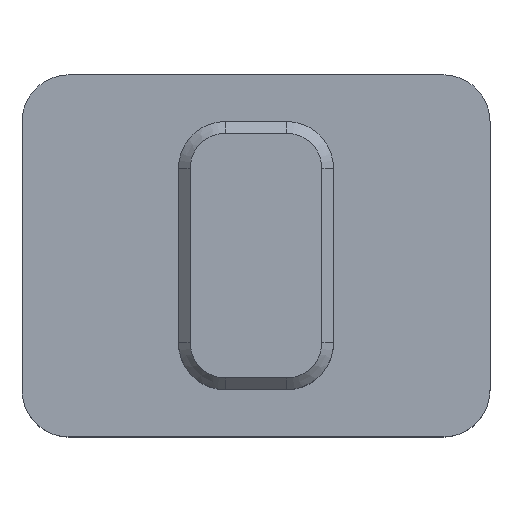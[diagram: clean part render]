
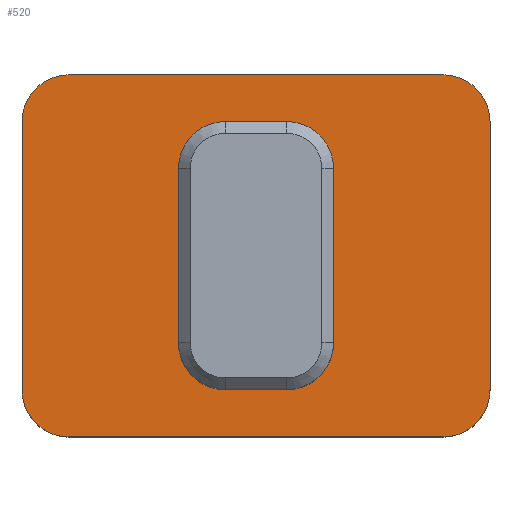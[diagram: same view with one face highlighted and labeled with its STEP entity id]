
A CAD part, top view. The second image highlights one B-rep face of the part: STEP entity #520.
In plain terms, the highlighted planar face has unit normal (0, 0, 1).
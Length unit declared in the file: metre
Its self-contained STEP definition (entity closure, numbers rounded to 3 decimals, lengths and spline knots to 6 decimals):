
#24=CIRCLE('',#565,0.002);
#25=CIRCLE('',#566,0.002);
#26=CIRCLE('',#567,0.002);
#27=CIRCLE('',#568,0.002);
#28=CIRCLE('',#569,0.002);
#29=CIRCLE('',#570,0.002);
#30=CIRCLE('',#571,0.002);
#31=CIRCLE('',#572,0.002);
#68=ORIENTED_EDGE('',*,*,#212,.F.);
#69=ORIENTED_EDGE('',*,*,#213,.F.);
#70=ORIENTED_EDGE('',*,*,#199,.T.);
#71=ORIENTED_EDGE('',*,*,#214,.F.);
#72=ORIENTED_EDGE('',*,*,#215,.T.);
#73=ORIENTED_EDGE('',*,*,#216,.F.);
#74=ORIENTED_EDGE('',*,*,#217,.F.);
#75=ORIENTED_EDGE('',*,*,#218,.F.);
#76=ORIENTED_EDGE('',*,*,#219,.F.);
#77=ORIENTED_EDGE('',*,*,#220,.T.);
#78=ORIENTED_EDGE('',*,*,#221,.T.);
#79=ORIENTED_EDGE('',*,*,#222,.T.);
#80=ORIENTED_EDGE('',*,*,#223,.T.);
#81=ORIENTED_EDGE('',*,*,#224,.T.);
#82=ORIENTED_EDGE('',*,*,#225,.F.);
#83=ORIENTED_EDGE('',*,*,#226,.T.);
#199=EDGE_CURVE('',#276,#275,#323,.T.);
#212=EDGE_CURVE('',#284,#285,#336,.T.);
#213=EDGE_CURVE('',#276,#284,#24,.T.);
#214=EDGE_CURVE('',#286,#275,#25,.T.);
#215=EDGE_CURVE('',#286,#287,#337,.T.);
#216=EDGE_CURVE('',#288,#287,#26,.T.);
#217=EDGE_CURVE('',#289,#288,#338,.T.);
#218=EDGE_CURVE('',#285,#289,#27,.T.);
#219=EDGE_CURVE('',#290,#291,#339,.T.);
#220=EDGE_CURVE('',#290,#292,#28,.T.);
#221=EDGE_CURVE('',#292,#293,#340,.T.);
#222=EDGE_CURVE('',#293,#294,#29,.T.);
#223=EDGE_CURVE('',#294,#295,#341,.T.);
#224=EDGE_CURVE('',#295,#296,#30,.T.);
#225=EDGE_CURVE('',#297,#296,#342,.T.);
#226=EDGE_CURVE('',#297,#291,#31,.T.);
#275=VERTEX_POINT('',#778);
#276=VERTEX_POINT('',#780);
#284=VERTEX_POINT('',#806);
#285=VERTEX_POINT('',#807);
#286=VERTEX_POINT('',#810);
#287=VERTEX_POINT('',#812);
#288=VERTEX_POINT('',#814);
#289=VERTEX_POINT('',#816);
#290=VERTEX_POINT('',#819);
#291=VERTEX_POINT('',#820);
#292=VERTEX_POINT('',#822);
#293=VERTEX_POINT('',#824);
#294=VERTEX_POINT('',#826);
#295=VERTEX_POINT('',#828);
#296=VERTEX_POINT('',#830);
#297=VERTEX_POINT('',#832);
#323=LINE('',#779,#379);
#336=LINE('',#805,#392);
#337=LINE('',#811,#393);
#338=LINE('',#815,#394);
#339=LINE('',#818,#395);
#340=LINE('',#823,#396);
#341=LINE('',#827,#397);
#342=LINE('',#831,#398);
#379=VECTOR('',#617,1.);
#392=VECTOR('',#640,1.);
#393=VECTOR('',#645,1.);
#394=VECTOR('',#648,1.);
#395=VECTOR('',#651,1.);
#396=VECTOR('',#654,1.);
#397=VECTOR('',#657,1.);
#398=VECTOR('',#660,1.);
#437=EDGE_LOOP('',(#68,#69,#70,#71,#72,#73,#74,#75));
#438=EDGE_LOOP('',(#76,#77,#78,#79,#80,#81,#82,#83));
#469=FACE_BOUND('',#437,.T.);
#470=FACE_BOUND('',#438,.T.);
#501=PLANE('',#564);
#520=ADVANCED_FACE('',(#469,#470),#501,.F.);
#564=AXIS2_PLACEMENT_3D('',#804,#638,#639);
#565=AXIS2_PLACEMENT_3D('',#808,#641,#642);
#566=AXIS2_PLACEMENT_3D('',#809,#643,#644);
#567=AXIS2_PLACEMENT_3D('',#813,#646,#647);
#568=AXIS2_PLACEMENT_3D('',#817,#649,#650);
#569=AXIS2_PLACEMENT_3D('',#821,#652,#653);
#570=AXIS2_PLACEMENT_3D('',#825,#655,#656);
#571=AXIS2_PLACEMENT_3D('',#829,#658,#659);
#572=AXIS2_PLACEMENT_3D('',#833,#661,#662);
#617=DIRECTION('',(1.,0.,0.));
#638=DIRECTION('',(0.,0.,-1.));
#639=DIRECTION('',(1.,0.,0.));
#640=DIRECTION('',(0.,1.,0.));
#641=DIRECTION('',(0.,0.,-1.));
#642=DIRECTION('',(-1.,0.,0.));
#643=DIRECTION('',(0.,0.,-1.));
#644=DIRECTION('',(-1.,0.,0.));
#645=DIRECTION('',(0.,1.,0.));
#646=DIRECTION('',(0.,0.,-1.));
#647=DIRECTION('',(-1.,0.,0.));
#648=DIRECTION('',(1.,0.,0.));
#649=DIRECTION('',(0.,0.,-1.));
#650=DIRECTION('',(-1.,0.,0.));
#651=DIRECTION('',(0.,1.,0.));
#652=DIRECTION('',(0.,0.,-1.));
#653=DIRECTION('',(-1.,0.,0.));
#654=DIRECTION('',(-1.,0.,0.));
#655=DIRECTION('',(0.,0.,-1.));
#656=DIRECTION('',(-1.,0.,0.));
#657=DIRECTION('',(0.,1.,0.));
#658=DIRECTION('',(0.,0.,-1.));
#659=DIRECTION('',(-1.,0.,0.));
#660=DIRECTION('',(-1.,0.,0.));
#661=DIRECTION('',(0.,0.,-1.));
#662=DIRECTION('',(-1.,0.,0.));
#778=CARTESIAN_POINT('',(0.00645,-0.0077,0.011731));
#779=CARTESIAN_POINT('',(-0.0015,-0.0077,0.011731));
#780=CARTESIAN_POINT('',(-0.00945,-0.0077,0.011731));
#804=CARTESIAN_POINT('',(-0.0015,0.,0.011731));
#805=CARTESIAN_POINT('',(-0.01145,0.,0.011731));
#806=CARTESIAN_POINT('',(-0.01145,-0.0057,0.011731));
#807=CARTESIAN_POINT('',(-0.01145,0.0057,0.011731));
#808=CARTESIAN_POINT('',(-0.00945,-0.0057,0.011731));
#809=CARTESIAN_POINT('',(0.00645,-0.0057,0.011731));
#810=CARTESIAN_POINT('',(0.00845,-0.0057,0.011731));
#811=CARTESIAN_POINT('',(0.00845,0.,0.011731));
#812=CARTESIAN_POINT('',(0.00845,0.0057,0.011731));
#813=CARTESIAN_POINT('',(0.00645,0.0057,0.011731));
#814=CARTESIAN_POINT('',(0.00645,0.0077,0.011731));
#815=CARTESIAN_POINT('',(-0.0015,0.0077,0.011731));
#816=CARTESIAN_POINT('',(-0.00945,0.0077,0.011731));
#817=CARTESIAN_POINT('',(-0.00945,0.0057,0.011731));
#818=CARTESIAN_POINT('',(0.0018,0.00185,0.011731));
#819=CARTESIAN_POINT('',(0.0018,-0.0037,0.011731));
#820=CARTESIAN_POINT('',(0.0018,0.0037,0.011731));
#821=CARTESIAN_POINT('',(-0.0002,-0.0037,0.011731));
#822=CARTESIAN_POINT('',(-0.0002,-0.0057,0.011731));
#823=CARTESIAN_POINT('',(-0.0015,-0.0057,0.011731));
#824=CARTESIAN_POINT('',(-0.0028,-0.0057,0.011731));
#825=CARTESIAN_POINT('',(-0.0028,-0.0037,0.011731));
#826=CARTESIAN_POINT('',(-0.0048,-0.0037,0.011731));
#827=CARTESIAN_POINT('',(-0.0048,0.,0.011731));
#828=CARTESIAN_POINT('',(-0.0048,0.0037,0.011731));
#829=CARTESIAN_POINT('',(-0.0028,0.0037,0.011731));
#830=CARTESIAN_POINT('',(-0.0028,0.0057,0.011731));
#831=CARTESIAN_POINT('',(-0.0015,0.0057,0.011731));
#832=CARTESIAN_POINT('',(-0.0002,0.0057,0.011731));
#833=CARTESIAN_POINT('',(-0.0002,0.0037,0.011731));
